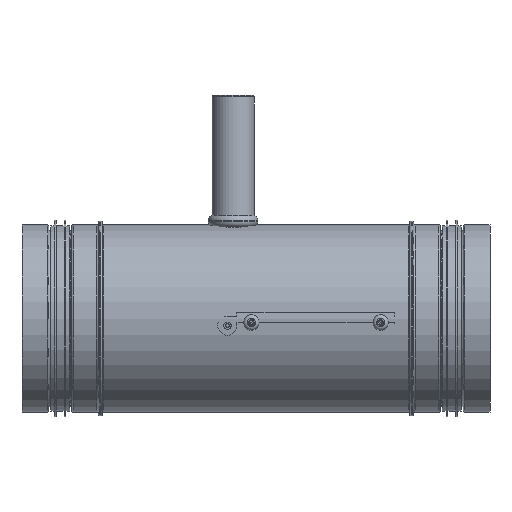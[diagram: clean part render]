
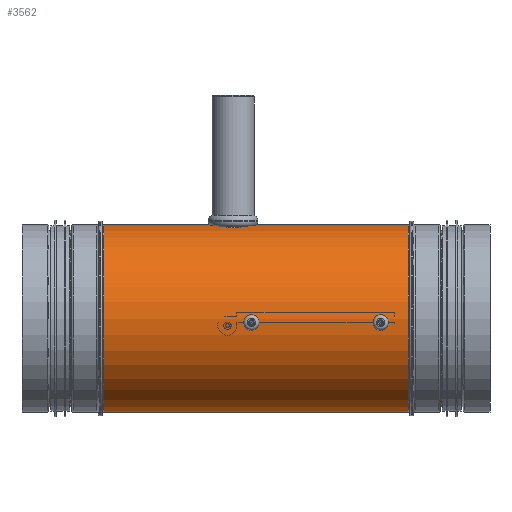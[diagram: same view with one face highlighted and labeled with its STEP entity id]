
A CAD part, left-side view. The second image highlights one B-rep face of the part: STEP entity #3562.
In plain terms, the highlighted cylindrical face has radius 49 mm (diameter 98 mm), a full revolution.
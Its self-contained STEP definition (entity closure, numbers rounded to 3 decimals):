
#104=CYLINDRICAL_SURFACE('',#4049,49.);
#303=FACE_OUTER_BOUND('',#549,.T.);
#549=EDGE_LOOP('',(#2720,#2721,#2722,#2723));
#813=CIRCLE('',#4048,49.);
#814=CIRCLE('',#4050,49.);
#972=LINE('',#5683,#1232);
#1037=LINE('',#5878,#1297);
#1232=VECTOR('',#4420,10.);
#1297=VECTOR('',#4613,10.);
#1492=VERTEX_POINT('',#5676);
#1494=VERTEX_POINT('',#5682);
#1558=VERTEX_POINT('',#5871);
#1560=VERTEX_POINT('',#5877);
#1796=EDGE_CURVE('',#1494,#1492,#972,.T.);
#1893=EDGE_CURVE('',#1558,#1560,#1037,.T.);
#1996=EDGE_CURVE('',#1558,#1494,#813,.T.);
#1997=EDGE_CURVE('',#1560,#1492,#814,.T.);
#2720=ORIENTED_EDGE('',*,*,#1796,.T.);
#2721=ORIENTED_EDGE('',*,*,#1997,.F.);
#2722=ORIENTED_EDGE('',*,*,#1893,.F.);
#2723=ORIENTED_EDGE('',*,*,#1996,.T.);
#3562=ADVANCED_FACE('',(#303),#104,.T.);
#4048=AXIS2_PLACEMENT_3D('',#6081,#4911,#4912);
#4049=AXIS2_PLACEMENT_3D('',#6082,#4913,#4914);
#4050=AXIS2_PLACEMENT_3D('',#6083,#4915,#4916);
#4420=DIRECTION('',(0.,0.,-1.));
#4613=DIRECTION('',(0.,0.,-1.));
#4911=DIRECTION('center_axis',(0.,0.,-1.));
#4912=DIRECTION('ref_axis',(1.,0.,0.));
#4913=DIRECTION('center_axis',(0.,0.,-1.));
#4914=DIRECTION('ref_axis',(-1.,0.,0.));
#4915=DIRECTION('center_axis',(0.,0.,-1.));
#4916=DIRECTION('ref_axis',(1.,0.,0.));
#5676=CARTESIAN_POINT('',(49.,0.009,-79.75));
#5682=CARTESIAN_POINT('',(49.,0.009,79.75));
#5683=CARTESIAN_POINT('',(49.,0.009,0.));
#5871=CARTESIAN_POINT('',(49.,0.,79.75));
#5877=CARTESIAN_POINT('',(49.,0.,-79.75));
#5878=CARTESIAN_POINT('',(49.,0.,79.75));
#6081=CARTESIAN_POINT('Origin',(0.,0.,79.75));
#6082=CARTESIAN_POINT('Origin',(0.,0.,0.));
#6083=CARTESIAN_POINT('Origin',(0.,0.,-79.75));
